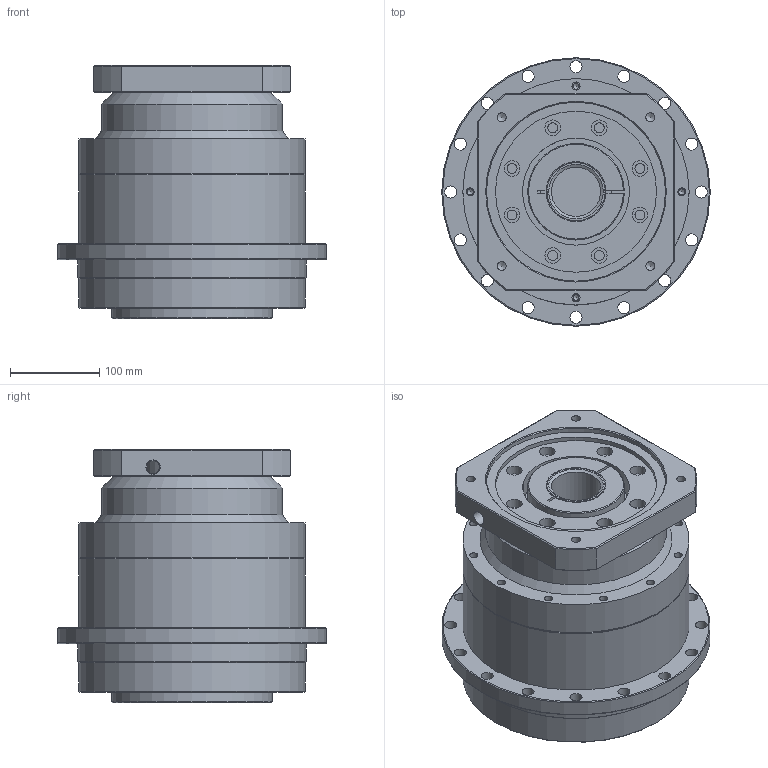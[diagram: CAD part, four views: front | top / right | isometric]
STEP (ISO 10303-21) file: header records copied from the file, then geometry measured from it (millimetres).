
FILE_DESCRIPTION((''),'2;1');
FILE_NAME('D:\유성\유성\도면\3D\2. 홈페이지용 3D 도면 (ipt)\외부도\SPIFH220\SPIFH220 SERIES (1 STAGE)_Shrinkwrap_1.stp','2014-05-08T19:29:21',('nagyu'),(''),'Autodesk Inventor 2013','Autodesk Inventor 2013','');
FILE_SCHEMA(('AUTOMOTIVE_DESIGN { 1 0 10303 214 1 1 1 1 }'));
Length unit declared in the file: millimetre
Products named in the file (1): SPIFH220 SERIES (1 STAGE)_Shrinkwrap_1
Bounding box: 300 x 300 x 283.5 mm (x, y, z)
Volume: 11832811.9 mm3; surface area: 600828.2 mm2
Topology: 1 solids, 5 shells, 272 faces, 573 edges, 364 vertices
Faces by surface type: cylinder 122, plane 92, cone 52, torus 6
Full cylindrical faces by diameter (mm): 4.2 x2, 6.647 x12, 9 x12, 10.106 x4, 11 x8, 12 x1, 13.5 x16, 13.835 x12, 14.5 x1, 16 x1, 17.5 x8, 24 x12, 55 x1, 63.5 x1, 65 x1, 79.7 x1, 100 x1, 119.5 x1, 129.5 x2, 130 x1, 140 x1, 170.049 x1, 180 x2, 187 x1, 193 x1, 200 x1, 202 x1, 210 x1, 220 x2, 224.8 x1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
Entity records: 6320 total; most frequent: DIRECTION 1166, CARTESIAN_POINT 1120, ORIENTED_EDGE 732, AXIS2_PLACEMENT_3D 556, EDGE_LOOP 532, EDGE_CURVE 366, VERTEX_POINT 316, CIRCLE 283
